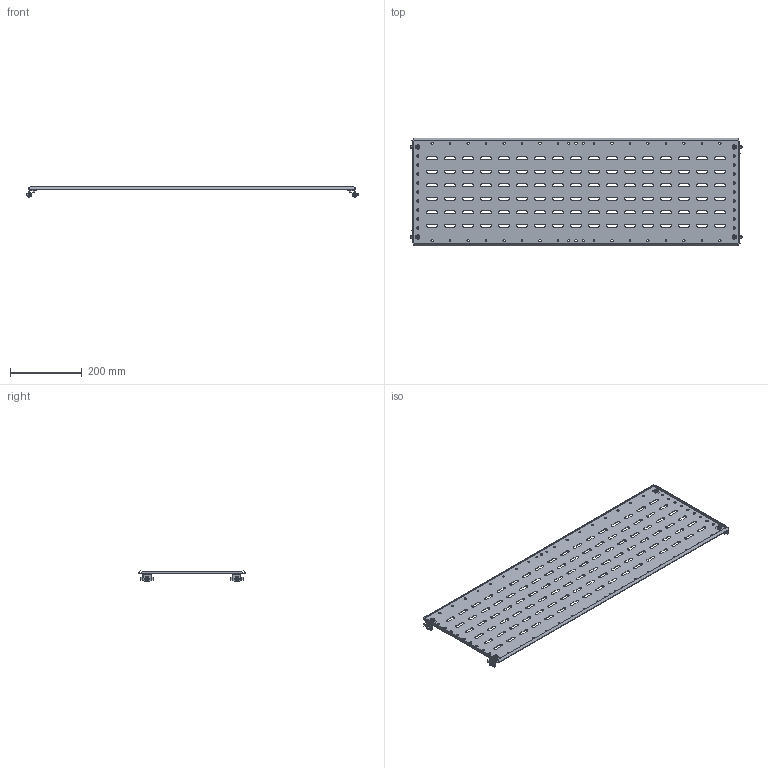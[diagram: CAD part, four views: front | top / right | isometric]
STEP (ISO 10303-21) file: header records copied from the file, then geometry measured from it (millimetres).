
FILE_DESCRIPTION (( 'STEP AP214' ), '1' );
FILE_NAME ('FO-00-SWF-030-100 Ïåðåãîðîäêà ñåêöèîíèðîâàíèÿ çàäíÿÿ 300õ1000 ìì.STEP', '2025-08-12T09:29:07', ( '' ), ( '' ), 'SwSTEP 2.0', 'SolidWorks 2023', '' );
FILE_SCHEMA (( 'AUTOMOTIVE_DESIGN' ));
Length unit declared in the file: millimetre
Products named in the file (1): FO-00-SWF-030-100 Перегородка секционирования задняя 300х1000 мм
Bounding box: 922.4 x 297.66 x 30.52 mm (x, y, z)
Volume: 407734.4 mm3; surface area: 551427.1 mm2
Topology: 1 solids, 5 shells, 1030 faces, 2904 edges, 1912 vertices
Faces by surface type: cylinder 594, plane 372, cone 32, torus 32
Entity records: 34419 total; most frequent: DIRECTION 6250, CARTESIAN_POINT 5847, ORIENTED_EDGE 5808, EDGE_CURVE 2904, AXIS2_PLACEMENT_3D 2315, VERTEX_POINT 1912, LINE 1620, VECTOR 1620
